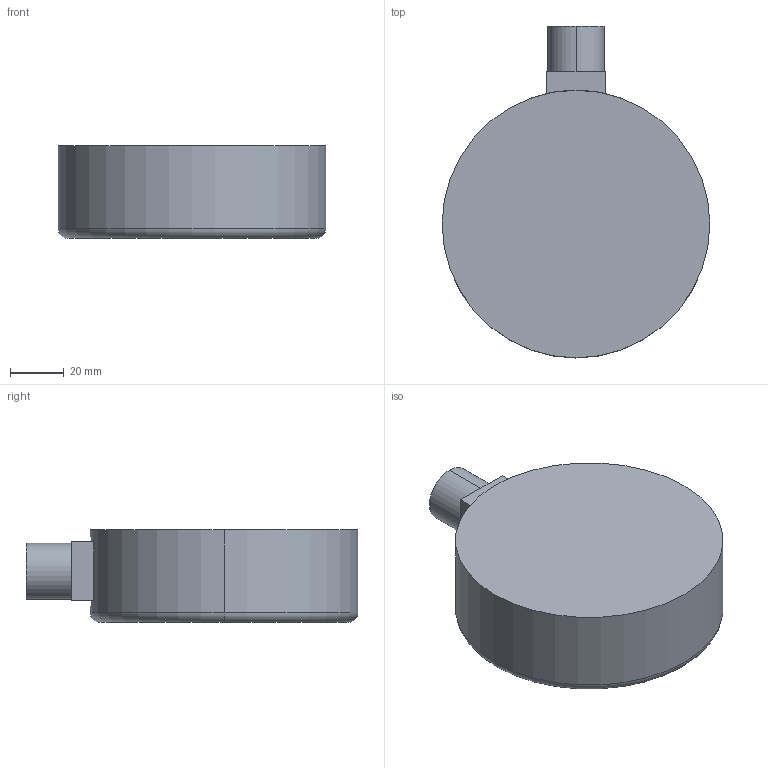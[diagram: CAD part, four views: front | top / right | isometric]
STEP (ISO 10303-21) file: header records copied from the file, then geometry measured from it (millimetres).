
FILE_DESCRIPTION (( 'STEP AP214' ), '1' );
FILE_NAME ('Manometr_grzewczy_hydrometr_x_0_3D_AFRISO.STEP', '2022-12-08T13:48:13', ( '' ), ( '' ), 'SwSTEP 2.0', 'SolidWorks 2022', '' );
FILE_SCHEMA (( 'AUTOMOTIVE_DESIGN' ));
Length unit declared in the file: millimetre
Products named in the file (1): Manometr_grzewczy_hydrometr_x_0_3D_AFRISO
Bounding box: 100 x 124 x 34.5 mm (x, y, z)
Volume: 279622.2 mm3; surface area: 27874.4 mm2
Topology: 1 solids, 1 shells, 14 faces, 28 edges, 18 vertices
Faces by surface type: plane 8, cylinder 4, torus 2
Entity records: 404 total; most frequent: DIRECTION 72, CARTESIAN_POINT 61, ORIENTED_EDGE 56, AXIS2_PLACEMENT_3D 29, EDGE_CURVE 28, VERTEX_POINT 18, EDGE_LOOP 16, ADVANCED_FACE 14
